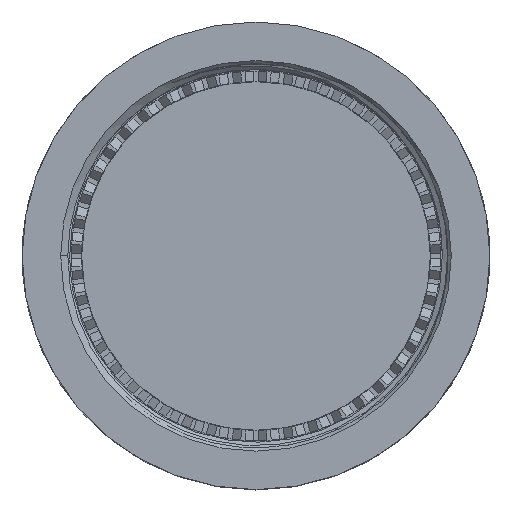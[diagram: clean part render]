
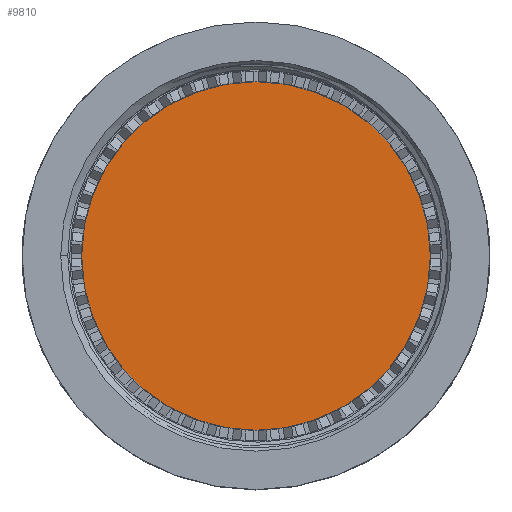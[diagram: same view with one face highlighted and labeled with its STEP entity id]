
A CAD part, top view. The second image highlights one B-rep face of the part: STEP entity #9810.
In plain terms, the highlighted planar face has unit normal (0, 0, 1).
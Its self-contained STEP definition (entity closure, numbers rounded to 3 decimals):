
#303 = CIRCLE ( 'NONE', #1917, 16.726 ) ;
#992 = VERTEX_POINT ( 'NONE', #9685 ) ;
#1506 = PLANE ( 'NONE',  #5795 ) ;
#1597 = ORIENTED_EDGE ( 'NONE', *, *, #3603, .T. ) ;
#1917 = AXIS2_PLACEMENT_3D ( 'NONE', #6588, #3383, #6647 ) ;
#2733 = DIRECTION ( 'NONE',  ( -1., 0., 0. ) ) ;
#3185 = FACE_OUTER_BOUND ( 'NONE', #7879, .T. ) ;
#3383 = DIRECTION ( 'NONE',  ( 0., 0., 1. ) ) ;
#3603 = EDGE_CURVE ( 'NONE', #992, #9989, #5344, .T. ) ;
#3897 = EDGE_CURVE ( 'NONE', #9989, #992, #303, .T. ) ;
#4374 = AXIS2_PLACEMENT_3D ( 'NONE', #6705, #4380, #2733 ) ;
#4380 = DIRECTION ( 'NONE',  ( 0., 0., 1. ) ) ;
#4959 = CARTESIAN_POINT ( 'NONE',  ( -16.726, 0., -1.928 ) ) ;
#5344 = CIRCLE ( 'NONE', #4374, 16.726 ) ;
#5481 = CARTESIAN_POINT ( 'NONE',  ( 0., 0., -1.928 ) ) ;
#5795 = AXIS2_PLACEMENT_3D ( 'NONE', #5481, #9975, #9268 ) ;
#6588 = CARTESIAN_POINT ( 'NONE',  ( 0., 0., -1.928 ) ) ;
#6647 = DIRECTION ( 'NONE',  ( -1., 0., 0. ) ) ;
#6705 = CARTESIAN_POINT ( 'NONE',  ( 0., 0., -1.928 ) ) ;
#7879 = EDGE_LOOP ( 'NONE', ( #1597, #8606 ) ) ;
#8606 = ORIENTED_EDGE ( 'NONE', *, *, #3897, .T. ) ;
#9268 = DIRECTION ( 'NONE',  ( -1., 0., 0. ) ) ;
#9685 = CARTESIAN_POINT ( 'NONE',  ( 16.726, 0., -1.928 ) ) ;
#9810 = ADVANCED_FACE ( 'NONE', ( #3185 ), #1506, .F. ) ;
#9975 = DIRECTION ( 'NONE',  ( 0., 0., -1. ) ) ;
#9989 = VERTEX_POINT ( 'NONE', #4959 ) ;
